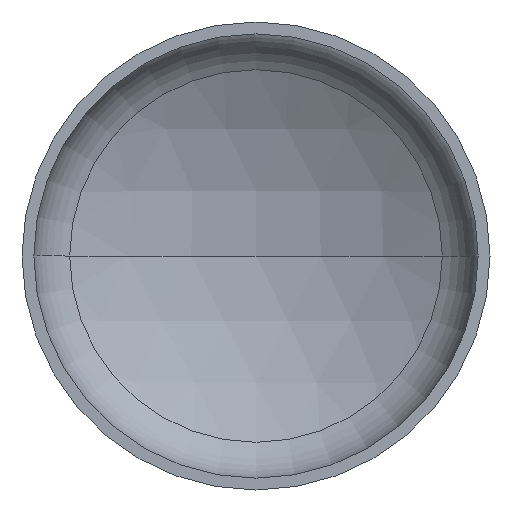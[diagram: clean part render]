
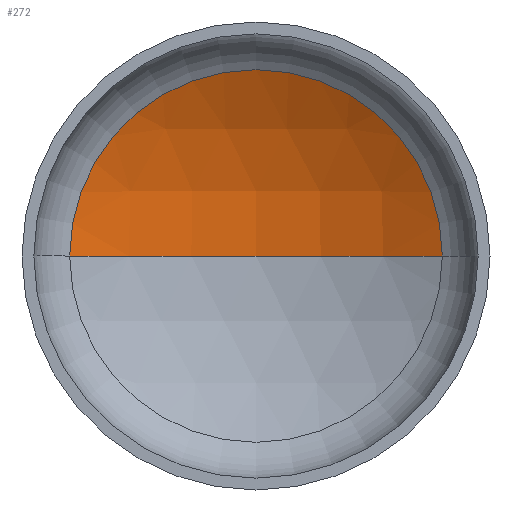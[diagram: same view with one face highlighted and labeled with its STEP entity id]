
A CAD part, front view. The second image highlights one B-rep face of the part: STEP entity #272.
In plain terms, the highlighted spherical face has radius 1520 mm.
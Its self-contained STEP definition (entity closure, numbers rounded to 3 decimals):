
#12 = ORIENTED_EDGE ( 'NONE', *, *, #341, .T. ) ;
#15 = AXIS2_PLACEMENT_3D ( 'NONE', #231, #382, #177 ) ;
#16 = AXIS2_PLACEMENT_3D ( 'NONE', #197, #99, #364 ) ;
#18 = AXIS2_PLACEMENT_3D ( 'NONE', #174, #182, #345 ) ;
#26 = EDGE_LOOP ( 'NONE', ( #72, #53, #12 ) ) ;
#44 = AXIS2_PLACEMENT_3D ( 'NONE', #266, #249, #234 ) ;
#45 = VERTEX_POINT ( 'NONE', #242 ) ;
#53 = ORIENTED_EDGE ( 'NONE', *, *, #346, .T. ) ;
#72 = ORIENTED_EDGE ( 'NONE', *, *, #350, .F. ) ;
#99 = DIRECTION ( 'NONE',  ( 0., 0., 1. ) ) ;
#100 = VERTEX_POINT ( 'NONE', #299 ) ;
#127 = VERTEX_POINT ( 'NONE', #316 ) ;
#174 = CARTESIAN_POINT ( 'NONE',  ( 0., 401.554, 0. ) ) ;
#177 = DIRECTION ( 'NONE',  ( -1., 0., 0. ) ) ;
#182 = DIRECTION ( 'NONE',  ( 0., -1., 0. ) ) ;
#197 = CARTESIAN_POINT ( 'NONE',  ( 0., -916.938, 0. ) ) ;
#231 = CARTESIAN_POINT ( 'NONE',  ( 0., -916.938, 0. ) ) ;
#234 = DIRECTION ( 'NONE',  ( -1., 0., 0. ) ) ;
#242 = CARTESIAN_POINT ( 'NONE',  ( 756.293, 401.554, 0. ) ) ;
#244 = CIRCLE ( 'NONE', #18, 756.293 ) ;
#249 = DIRECTION ( 'NONE',  ( 0., 0., -1. ) ) ;
#253 = FACE_OUTER_BOUND ( 'NONE', #26, .T. ) ;
#266 = CARTESIAN_POINT ( 'NONE',  ( 0., -916.938, 0. ) ) ;
#272 = ADVANCED_FACE ( 'NONE', ( #253 ), #368, .F. ) ;
#282 = CIRCLE ( 'NONE', #15, 1520. ) ;
#299 = CARTESIAN_POINT ( 'NONE',  ( -756.293, 401.554, 0. ) ) ;
#316 = CARTESIAN_POINT ( 'NONE',  ( 0., 603.062, 0. ) ) ;
#341 = EDGE_CURVE ( 'NONE', #45, #100, #244, .T. ) ;
#345 = DIRECTION ( 'NONE',  ( 1., 0., 0. ) ) ;
#346 = EDGE_CURVE ( 'NONE', #127, #45, #282, .T. ) ;
#350 = EDGE_CURVE ( 'NONE', #127, #100, #399, .T. ) ;
#364 = DIRECTION ( 'NONE',  ( 1., 0., 0. ) ) ;
#368 = SPHERICAL_SURFACE ( 'NONE', #44, 1520. ) ;
#382 = DIRECTION ( 'NONE',  ( 0., 0., -1. ) ) ;
#399 = CIRCLE ( 'NONE', #16, 1520. ) ;
